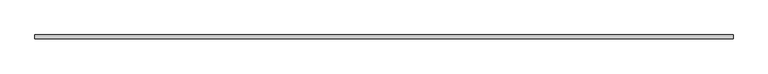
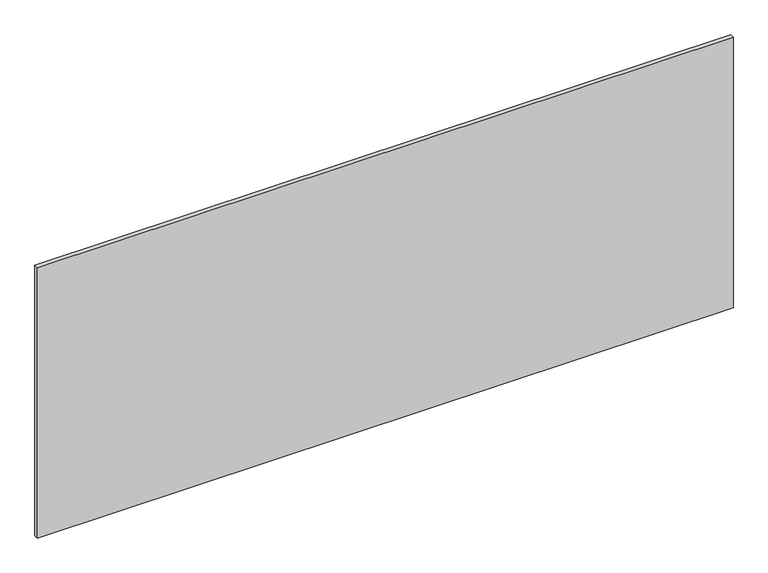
"""IFC4 building model written with IfcOpenShell, lengths in millimetres: plate geometry, 系統嵌板 : 玻璃 1.0cm."""

from ifc_helpers import new_model, si_unit, origin, origin_with_axes, place, context, project, spatial, polyline, outline, extrude, source, transform, mapped, element, save


def plate_79c12487(model_context):
    return source(origin(), model_context, "Body", "SweptSolid", [
        extrude(outline(polyline([(875.0, -5.0), (-875.0, -5.0), (-875.0, 5.0), (875.0, 5.0), (875.0, -5.0)])), origin_with_axes(), (0.0, 0.0, 1.0), 719.0),
    ])


if __name__ == "__main__":
    model = new_model("IFC4")
    model_context = context("Model", 3, world=origin())
    ifc_project = project(units=[si_unit("LENGTHUNIT", "METRE", prefix="MILLI")], contexts=[model_context])
    site = spatial("IfcSite", under=ifc_project)
    building = spatial("IfcBuilding", under=site)
    placement = place(None, origin())
    plate_shape = plate_79c12487(model_context)
    element("IfcPlate", 1, ObjectType="系統嵌板 : 玻璃 1.0cm", at=placement, inside=building, context=model_context, shape_type="MappedRepresentation", body=[
        mapped(plate_shape, transform((0.0, 0.0, 0.0), x_axis=(1.0, 0.0, 0.0), y_axis=(0.0, 1.0, 0.0), z_axis=(0.0, 0.0, 1.0))),
    ])
    save(model, "model.ifc")
